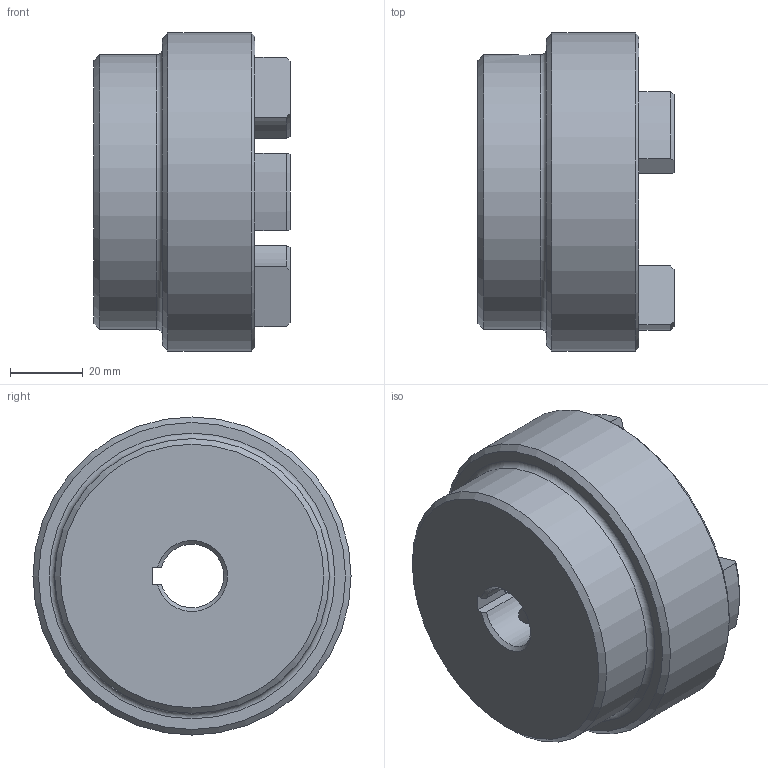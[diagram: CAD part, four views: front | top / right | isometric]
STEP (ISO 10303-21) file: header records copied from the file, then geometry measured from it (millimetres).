
FILE_DESCRIPTION (( 'STEP AP203' ), '1' );
FILE_NAME ('RC3.step', '2024-07-24T12:44:09', ( 'Adlan' ), ( '' ), 'SwSTEP 2.0', 'SolidWorks 2013', '' );
FILE_SCHEMA (( 'CONFIG_CONTROL_DESIGN' ));
Length unit declared in the file: inch
Products named in the file (1): RC3
Bounding box: 53.85 x 87.38 x 87.38 mm (x, y, z)
Volume: 187354.6 mm3; surface area: 30359.8 mm2
Topology: 1 solids, 1 shells, 70 faces, 180 edges, 113 vertices
Faces by surface type: cylinder 26, plane 19, torus 13, cone 12
Full cylindrical faces by diameter (mm): 5.105 x2, 75.438 x1, 87.376 x1
Entity records: 2365 total; most frequent: CARTESIAN_POINT 601, DIRECTION 370, ORIENTED_EDGE 332, EDGE_CURVE 166, AXIS2_PLACEMENT_3D 146, VERTEX_POINT 109, EDGE_LOOP 87, LINE 78
